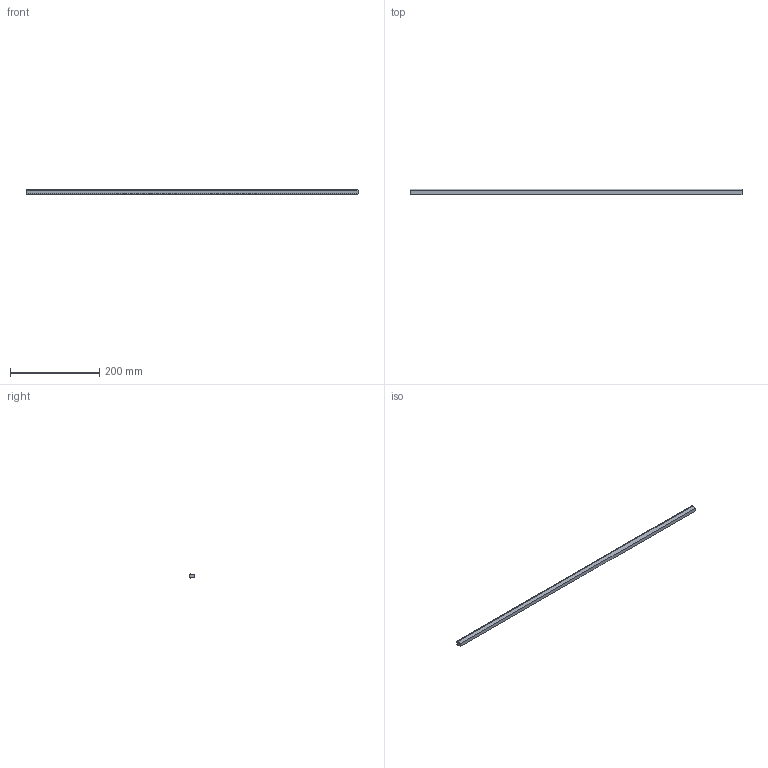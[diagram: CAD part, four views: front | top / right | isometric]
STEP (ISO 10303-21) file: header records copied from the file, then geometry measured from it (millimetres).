
FILE_DESCRIPTION(/* description */ (''),/* implementation_level */ '2;1');
FILE_NAME(/* name */ 'Pos0-Antislip-Rubber-0st_G',/* time_stamp */ '2024-08-06T13:37:43+02:00',/* author */ (''),/* organization */ (''),/* preprocessor_version */ 'ST-DEVELOPER v16.5',/* originating_system */ 'HiCAD 2024 2901.2 Build 361',/* authorisation */ '');
FILE_SCHEMA (('AUTOMOTIVE_DESIGN { 1 0 10303 214 1 1 1 1 }'));
Length unit declared in the file: millimetre
Products named in the file (1): Pos0-Antislip-Rubber-0st
Bounding box: 745.87 x 12 x 12 mm (x, y, z)
Volume: 74587.3 mm3; surface area: 34254.2 mm2
Topology: 1 solids, 1 shells, 10 faces, 24 edges, 16 vertices
Faces by surface type: plane 10
Entity records: 546 total; most frequent: CARTESIAN_POINT 50, PRESENTATION_STYLE_ASSIGNMENT 49, COLOUR_RGB 49, DRAUGHTING_PRE_DEFINED_CURVE_FONT 48, CURVE_STYLE 48, OVER_RIDING_STYLED_ITEM 48, ORIENTED_EDGE 48, DIRECTION 44
